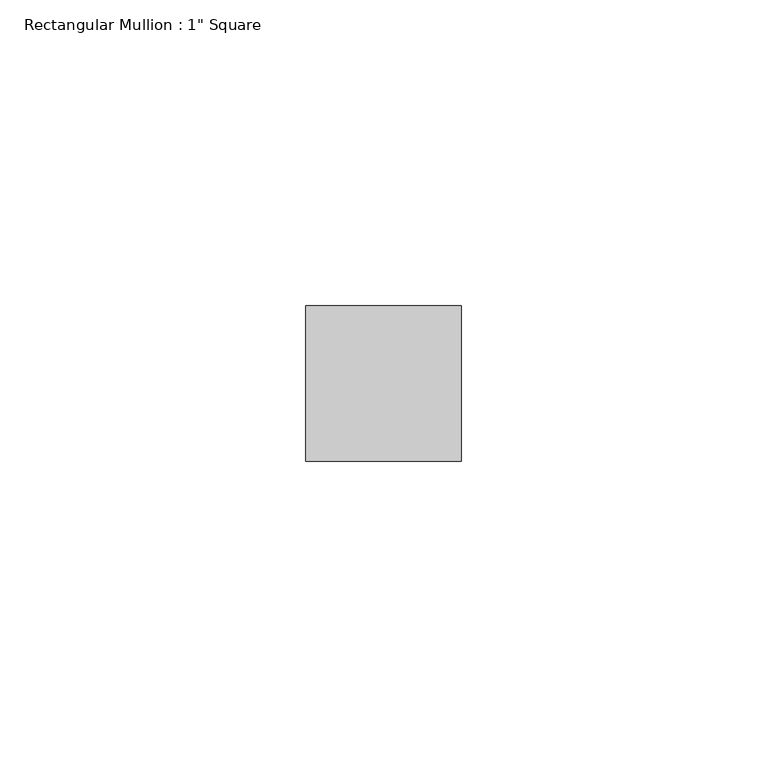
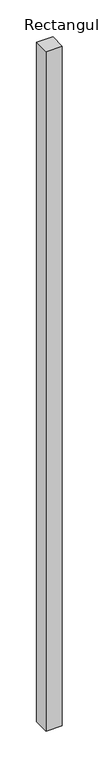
"""IFC4 building model written with IfcOpenShell, lengths in millimetres: member geometry."""

from ifc_helpers import new_model, si_unit, frame, origin, place, context, project, spatial, polyline, outline, extrude, source, transform, mapped, element, save


def member_d3833f24(model_context):
    return source(origin(), model_context, "Body", "SweptSolid", [
        extrude(outline(polyline([(12.7, 12.7), (12.7, -12.7), (-12.7, -12.7), (-12.7, 12.7), (12.7, 12.7)])), frame((0.0, 0.0, -1124.2863078), z_axis=(0.0, 0.0, 1.0), x_axis=(1.0, 0.0, 0.0)), (0.0, 0.0, 1.0), 1124.2863078),
    ])


if __name__ == "__main__":
    model = new_model("IFC4")
    model_context = context("Model", 3, world=origin())
    ifc_project = project(units=[si_unit("LENGTHUNIT", "METRE", prefix="MILLI")], contexts=[model_context])
    site = spatial("IfcSite", under=ifc_project)
    building = spatial("IfcBuilding", under=site)
    placement = place(None, origin())
    member_shape = member_d3833f24(model_context)
    element("IfcMember", 1, ObjectType="Rectangular Mullion : 1\" Square", at=placement, inside=building, context=model_context, shape_type="MappedRepresentation", body=[
        mapped(member_shape, transform((0.0, 0.0, 0.0), x_axis=(1.0, 0.0, 0.0), y_axis=(0.0, 1.0, 0.0), z_axis=(0.0, 0.0, 1.0))),
    ])
    save(model, "model.ifc")
